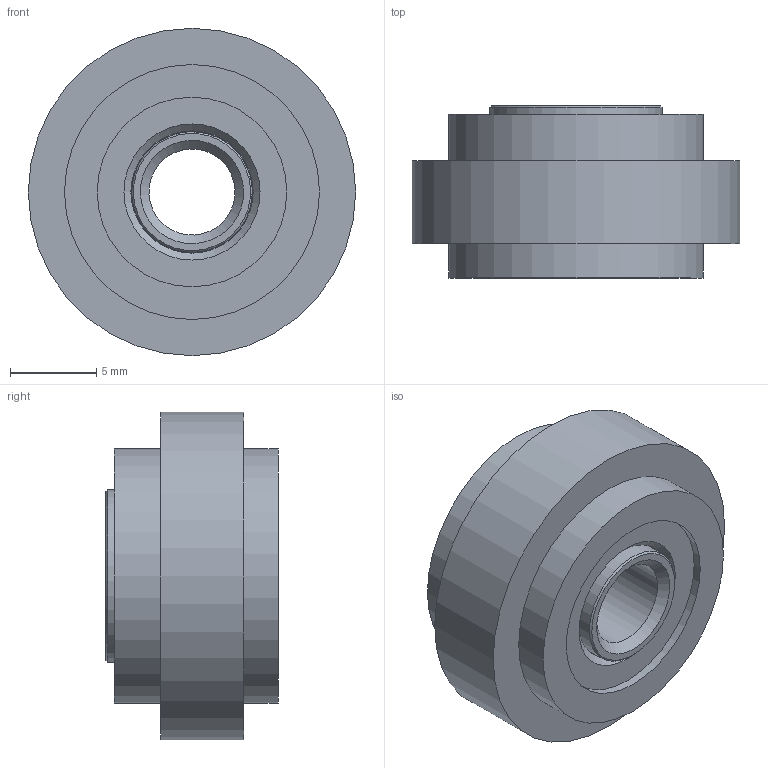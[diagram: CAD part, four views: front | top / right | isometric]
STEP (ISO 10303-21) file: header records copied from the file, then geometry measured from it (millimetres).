
FILE_DESCRIPTION(/* description */ ('www.motedis.com/part/566','CAx-IF Rec.Pracs.---Representation and Presentation of Product Manufacturing Information (PMI)---4.0---2014-10-13'),/* implementation_level */ '2;1');
FILE_NAME(/* name */ 'Motedis 566.stp',/* time_stamp */ '2026-04-17T10:47:41+02:00',/* author */ ('Motedis'),/* organization */ ('Motedis GmbH'),/* preprocessor_version */ 'ST-DEVELOPER v20.1',/* originating_system */ 'Autodesk Inventor 2026',/* authorisation */ 'Motedis GmbH');
FILE_SCHEMA (('AP242_MANAGED_MODEL_BASED_3D_ENGINEERING_MIM_LF { 1 0 10303 442 2 1 4 }'));
Length unit declared in the file: millimetre
Products named in the file (3): Motedis 566; 4309.005.001; 4309.005.002
Assembly tree (2 placements, depth 2):
  Motedis 566
    4309.005.001
    4309.005.002
Bounding box: 19 x 10 x 19 mm (x, y, z)
Volume: 1959.5 mm3; surface area: 1699.3 mm2
Topology: 2 solids, 2 shells, 25 faces, 45 edges, 29 vertices
Faces by surface type: cylinder 9, plane 9, cone 7
Full cylindrical faces by diameter (mm): 5 x1, 7 x1, 7.1 x1, 10 x1, 11 x2, 14.8 x2, 19 x1
Entity records: 1004 total; most frequent: DIRECTION 208, CARTESIAN_POINT 153, AXIS2_PLACEMENT_3D 96, ORIENTED_EDGE 90, EDGE_CURVE 45, EDGE_LOOP 34, CIRCLE 29, VERTEX_POINT 29
